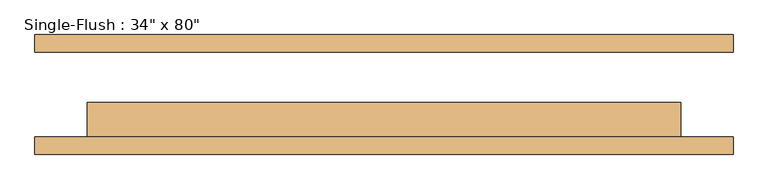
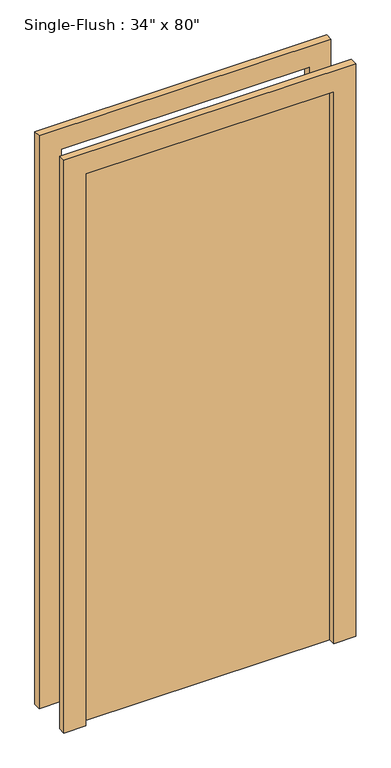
"""IFC4 building model written with IfcOpenShell, lengths in millimetres: door geometry."""

from ifc_helpers import new_model, si_unit, frame, origin, origin_with_axes, place, context, project, spatial, polyline, outline, extrude, source, transform, mapped, element, save


def door_2f6dbc15(model_context):
    return source(origin(), model_context, "Body", "SweptSolid", [
        extrude(outline(polyline([(2108.2, -508.0), (0.0, -508.0), (0.0, -431.8), (2032.0, -431.8), (2032.0, 431.8), (0.0, 431.8), (0.0, 508.0), (2108.2, 508.0), (2108.2, -508.0)])), frame((0.0, -87.3125, 0.0), z_axis=(0.0, 1.0, 0.0), x_axis=(0.0, 0.0, 1.0)), (0.0, 0.0, 1.0), 25.4),
        extrude(outline(polyline([(2108.2, 508.0), (2108.2, -508.0), (0.0, -508.0), (0.0, -431.8), (2032.0, -431.8), (2032.0, 431.8), (0.0, 431.8), (0.0, 508.0), (2108.2, 508.0)])), frame((0.0, 61.9125, 0.0), z_axis=(0.0, 1.0, 0.0), x_axis=(0.0, 0.0, 1.0)), (0.0, 0.0, 1.0), 25.4),
        extrude(outline(polyline([(431.8, -11.1125), (431.8, -61.9125), (-431.8, -61.9125), (-431.8, -11.1125), (431.8, -11.1125)])), origin_with_axes(), (0.0, 0.0, 1.0), 2032.0),
    ])


if __name__ == "__main__":
    model = new_model("IFC4")
    model_context = context("Model", 3, world=origin())
    ifc_project = project(units=[si_unit("LENGTHUNIT", "METRE", prefix="MILLI")], contexts=[model_context])
    site = spatial("IfcSite", under=ifc_project)
    building = spatial("IfcBuilding", under=site)
    placement = place(None, origin())
    door_shape = door_2f6dbc15(model_context)
    element("IfcDoor", 1, ObjectType="Single-Flush : 34\" x 80\"", at=placement, inside=building, context=model_context, shape_type="MappedRepresentation", body=[
        mapped(door_shape, transform((0.0, 0.0, 0.0), x_axis=(1.0, 0.0, 0.0), y_axis=(0.0, 1.0, 0.0), z_axis=(0.0, 0.0, 1.0))),
    ])
    save(model, "model.ifc")
